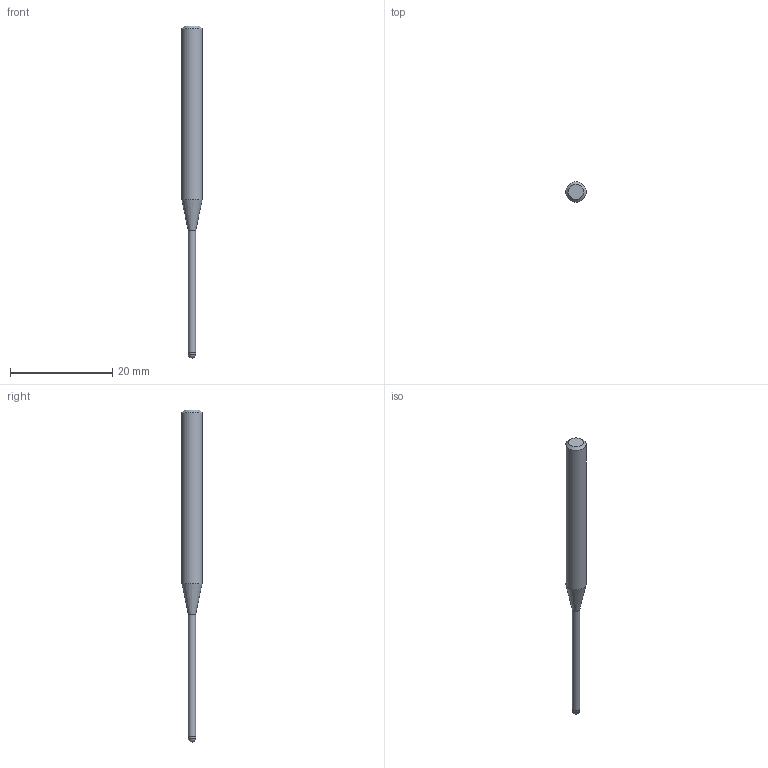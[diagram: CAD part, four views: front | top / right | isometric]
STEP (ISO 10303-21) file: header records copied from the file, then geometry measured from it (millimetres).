
FILE_DESCRIPTION((''),'2;1');
FILE_NAME('C:\Users\nsx150\AppData\Local\Temp\Mastercam 2021\ARV7HD45SN\TEMP.step','2023-06-13T16:36:40',(''),(''),'STEP Write','Mastercam 2021 ... CNC Software, Inc.','');
FILE_SCHEMA(('AUTOMOTIVE_DESIGN'));
Length unit declared in the file: millimetre
Products named in the file (1): None
Bounding box: 4 x 4 x 65 mm (x, y, z)
Volume: 504.3 mm3; surface area: 605.8 mm2
Topology: 2 solids, 2 shells, 9 faces, 14 edges, 8 vertices
Faces by surface type: plane 3, cylinder 3, cone 2, sphere 1
Full cylindrical faces by diameter (mm): 1.45 x1, 1.5 x1, 4 x1
Entity records: 211 total; most frequent: DIRECTION 36, CARTESIAN_POINT 25, AXIS2_PLACEMENT_3D 18, ORIENTED_EDGE 14, EDGE_LOOP 14, STYLED_ITEM 12, ADVANCED_FACE 9, FACE_BOUND 8
